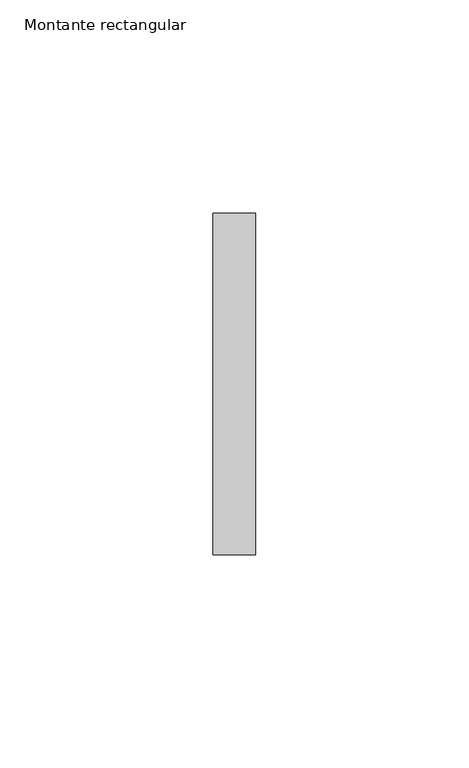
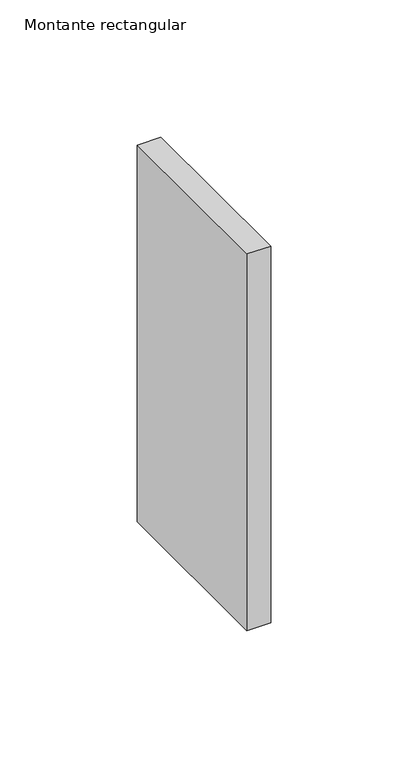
"""IFC4 building model written with IfcOpenShell, lengths in millimetres: member geometry, Montante rectangular : Junta de paves."""

from ifc_helpers import new_model, si_unit, frame, origin, place, context, project, spatial, polyline, outline, extrude, source, transform, mapped, element, save


def montante_rectangular_f59f1d85(model_context):
    return source(origin(), model_context, "Body", "SweptSolid", [
        extrude(outline(polyline([(-10.0, 40.0), (0.0, 40.0), (0.0, -40.0), (-10.0, -40.0), (-10.0, 40.0)])), frame((0.0, 0.0, -167.7385141), z_axis=(0.0, 0.0, 1.0), x_axis=(1.0, 0.0, 0.0)), (0.0, 0.0, 1.0), 167.7385141),
    ])


if __name__ == "__main__":
    model = new_model("IFC4")
    model_context = context("Model", 3, world=origin())
    ifc_project = project(units=[si_unit("LENGTHUNIT", "METRE", prefix="MILLI")], contexts=[model_context])
    site = spatial("IfcSite", under=ifc_project)
    building = spatial("IfcBuilding", under=site)
    placement = place(None, origin())
    montante_rectangular_shape = montante_rectangular_f59f1d85(model_context)
    element("IfcMember", 1, ObjectType="Montante rectangular : Junta de paves", at=placement, inside=building, context=model_context, shape_type="MappedRepresentation", body=[
        mapped(montante_rectangular_shape, transform((0.0, 0.0, 0.0), x_axis=(1.0, 0.0, 0.0), y_axis=(0.0, 1.0, 0.0), z_axis=(0.0, 0.0, 1.0))),
    ])
    save(model, "model.ifc")
